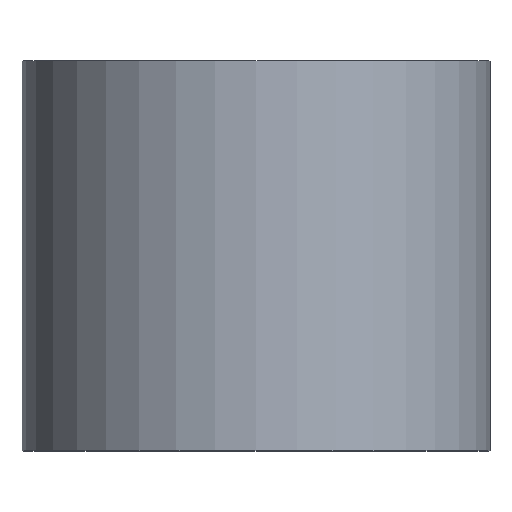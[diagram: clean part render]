
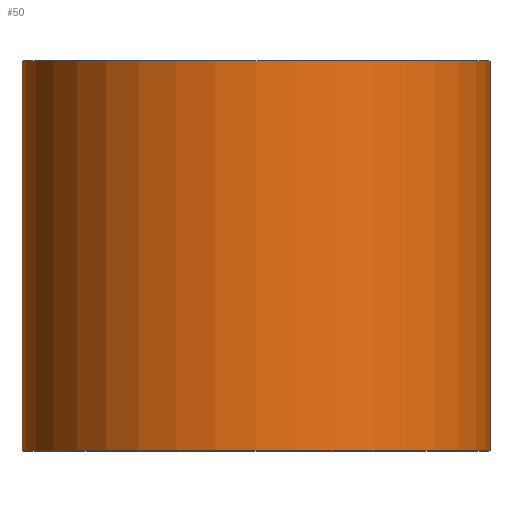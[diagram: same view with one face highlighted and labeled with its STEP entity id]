
A CAD part, top view. The second image highlights one B-rep face of the part: STEP entity #50.
In plain terms, the highlighted cylindrical face has radius 6 mm (diameter 12 mm), a partial arc.
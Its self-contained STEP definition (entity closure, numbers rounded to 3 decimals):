
#4 = CARTESIAN_POINT ( 'NONE',  ( 0., 0., 0. ) ) ;
#16 = AXIS2_PLACEMENT_3D ( 'NONE', #87, #156, #211 ) ;
#17 = VERTEX_POINT ( 'NONE', #109 ) ;
#18 = VERTEX_POINT ( 'NONE', #231 ) ;
#22 = DIRECTION ( 'NONE',  ( -1., 0., 0. ) ) ;
#50 = ADVANCED_FACE ( 'NONE', ( #53 ), #293, .T. ) ;
#53 = FACE_OUTER_BOUND ( 'NONE', #95, .T. ) ;
#55 = VERTEX_POINT ( 'NONE', #230 ) ;
#56 = EDGE_CURVE ( 'NONE', #18, #247, #112, .T. ) ;
#60 = LINE ( 'NONE', #142, #148 ) ;
#70 = ORIENTED_EDGE ( 'NONE', *, *, #282, .T. ) ;
#72 = CARTESIAN_POINT ( 'NONE',  ( 6., 10., 0. ) ) ;
#75 = DIRECTION ( 'NONE',  ( 0., 1., 0. ) ) ;
#87 = CARTESIAN_POINT ( 'NONE',  ( 0., 0., 0. ) ) ;
#90 = AXIS2_PLACEMENT_3D ( 'NONE', #4, #245, #220 ) ;
#95 = EDGE_LOOP ( 'NONE', ( #70, #123, #145, #139 ) ) ;
#99 = CIRCLE ( 'NONE', #90, 6. ) ;
#109 = CARTESIAN_POINT ( 'NONE',  ( -6., 0., 0. ) ) ;
#112 = LINE ( 'NONE', #181, #115 ) ;
#115 = VECTOR ( 'NONE', #132, 1000. ) ;
#123 = ORIENTED_EDGE ( 'NONE', *, *, #56, .T. ) ;
#132 = DIRECTION ( 'NONE',  ( 0., 1., 0. ) ) ;
#139 = ORIENTED_EDGE ( 'NONE', *, *, #271, .F. ) ;
#142 = CARTESIAN_POINT ( 'NONE',  ( -6., 0., 0. ) ) ;
#145 = ORIENTED_EDGE ( 'NONE', *, *, #152, .F. ) ;
#148 = VECTOR ( 'NONE', #75, 1000. ) ;
#152 = EDGE_CURVE ( 'NONE', #55, #247, #268, .T. ) ;
#156 = DIRECTION ( 'NONE',  ( 0., 1., 0. ) ) ;
#181 = CARTESIAN_POINT ( 'NONE',  ( 6., 0., 0. ) ) ;
#189 = AXIS2_PLACEMENT_3D ( 'NONE', #301, #300, #22 ) ;
#211 = DIRECTION ( 'NONE',  ( -1., 0., 0. ) ) ;
#220 = DIRECTION ( 'NONE',  ( -1., 0., 0. ) ) ;
#230 = CARTESIAN_POINT ( 'NONE',  ( -6., 10., 0. ) ) ;
#231 = CARTESIAN_POINT ( 'NONE',  ( 6., 0., 0. ) ) ;
#245 = DIRECTION ( 'NONE',  ( 0., 1., 0. ) ) ;
#247 = VERTEX_POINT ( 'NONE', #72 ) ;
#268 = CIRCLE ( 'NONE', #189, 6. ) ;
#271 = EDGE_CURVE ( 'NONE', #17, #55, #60, .T. ) ;
#282 = EDGE_CURVE ( 'NONE', #17, #18, #99, .T. ) ;
#293 = CYLINDRICAL_SURFACE ( 'NONE', #16, 6. ) ;
#300 = DIRECTION ( 'NONE',  ( 0., 1., 0. ) ) ;
#301 = CARTESIAN_POINT ( 'NONE',  ( 0., 10., 0. ) ) ;
